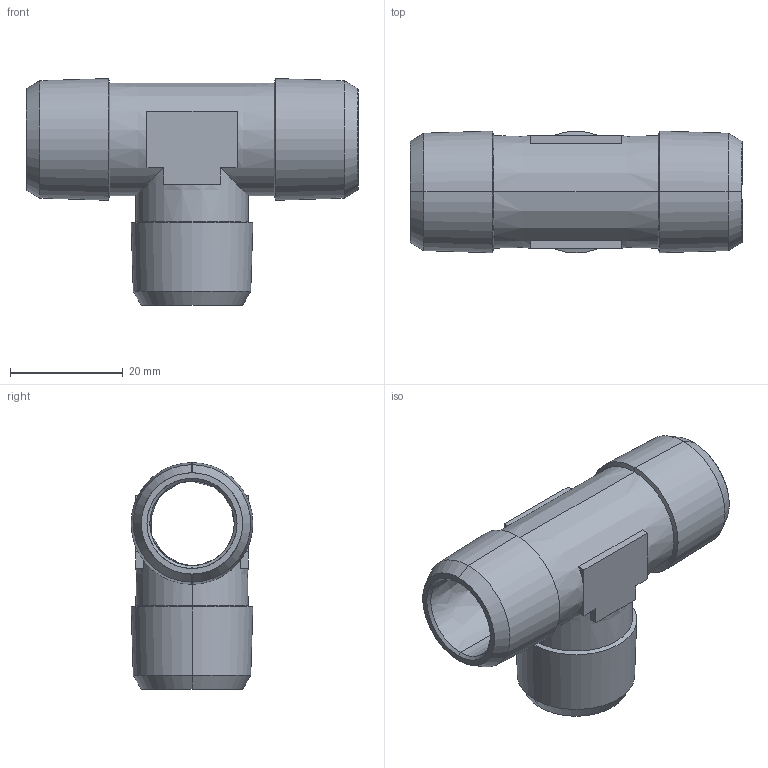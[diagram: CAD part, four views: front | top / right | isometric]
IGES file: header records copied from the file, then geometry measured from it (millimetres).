
Start section: SolidWorks IGES file using analytic representation for surfaces
Global section: file name: K:\Disegni Esecutivi\Accessori\4010\0401000010500.IGS; native system: SolidWorks 2007; preprocessor: SolidWorks 2007; author: cad02; date: 071023.114602; units: millimetre
Bounding box: 59 x 21.63 x 40.32 mm (x, y, z)
Surface area: 9085.7 mm2 (no closed solid volume)
Topology: 0 solids, 0 shells, 59 faces, 596 edges, 596 vertices
Faces by surface type: revolution 32, bspline 27
